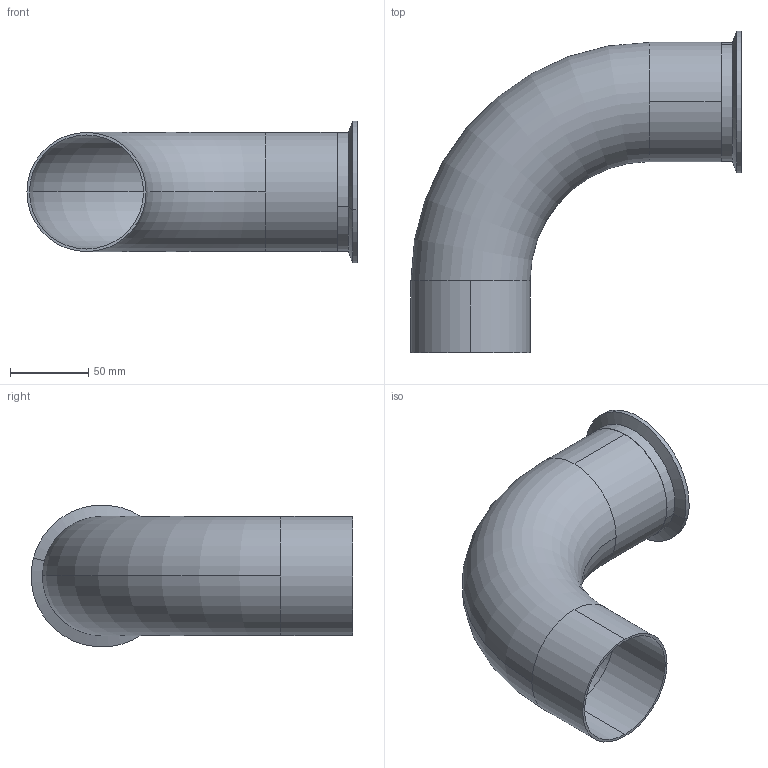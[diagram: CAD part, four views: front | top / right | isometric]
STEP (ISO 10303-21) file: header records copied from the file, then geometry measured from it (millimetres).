
FILE_DESCRIPTION (( 'STEP AP203' ), '1' );
FILE_NAME ('E2C3.0.STEP', '2018-04-30T15:36:50', ( 'vneprd' ), ( 'Microsoft' ), 'SwSTEP 2.0', 'SolidWorks 2014', '' );
FILE_SCHEMA (( 'CONFIG_CONTROL_DESIGN' ));
Length unit declared in the file: inch
Products named in the file (1): E2C3.0
Bounding box: 211.12 x 205.63 x 90.62 mm (x, y, z)
Volume: 117305 mm3; surface area: 138438.9 mm2
Topology: 2 solids, 2 shells, 31 faces, 70 edges, 44 vertices
Faces by surface type: cylinder 14, torus 10, plane 5, cone 2
Entity records: 979 total; most frequent: DIRECTION 188, CARTESIAN_POINT 146, ORIENTED_EDGE 140, AXIS2_PLACEMENT_3D 86, EDGE_CURVE 70, CIRCLE 54, VERTEX_POINT 44, EDGE_LOOP 36
